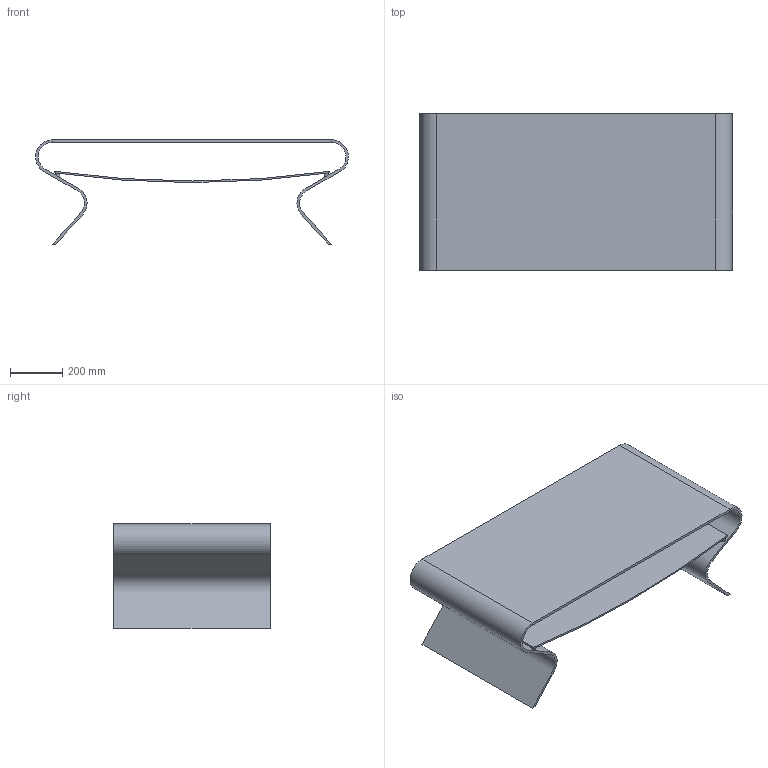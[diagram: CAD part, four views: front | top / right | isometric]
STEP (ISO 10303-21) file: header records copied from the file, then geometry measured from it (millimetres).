
FILE_DESCRIPTION(/* description */ (''),/* implementation_level */ '2;1');
FILE_NAME(/* name */ '1540 - 1541 - Charlottecon ripiano 120x60',/* time_stamp */ '2010-11-03T17:23:02+01:00',/* author */ (''),/* organization */ (''),/* preprocessor_version */ 'ST-DEVELOPER v10',/* originating_system */ '',/* authorisation */ '');
FILE_SCHEMA (('CONFIG_CONTROL_DESIGN'));
Length unit declared in the file: centimetre
Products named in the file (1): 1
Bounding box: 1199.97 x 600 x 400 mm (x, y, z)
Volume: 18401552.1 mm3; surface area: 3987099.3 mm2
Topology: 6 solids, 6 shells, 36 faces, 64 edges, 40 vertices
Faces by surface type: plane 22, bspline 14
Entity records: 1228 total; most frequent: CARTESIAN_POINT 672, ORIENTED_EDGE 128, EDGE_CURVE 64, B_SPLINE_CURVE_WITH_KNOTS 48, VERTEX_POINT 40, ADVANCED_FACE 36, FACE_OUTER_BOUND 36, EDGE_LOOP 36
